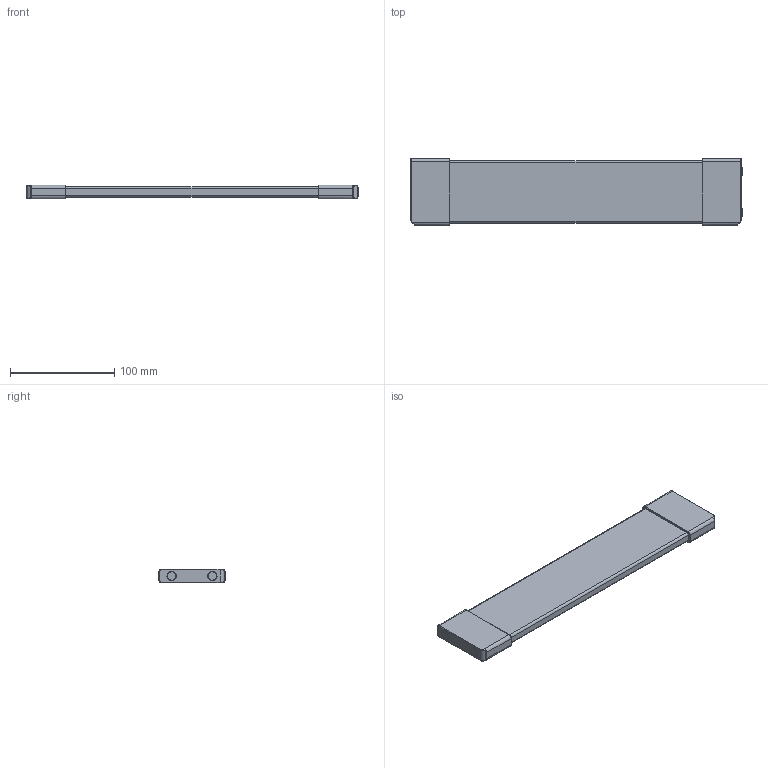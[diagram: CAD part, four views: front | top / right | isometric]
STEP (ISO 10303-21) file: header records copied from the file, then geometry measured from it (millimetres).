
FILE_DESCRIPTION (( 'STEP AP214' ), '1' );
FILE_NAME ('Schubkastenteiler_PROKAB_400.step', '2009-11-04T15:16:39', ( 'Waldinger Reinhard' ), ( 'Grass GmbH' ), 'SwSTEP 2.0', 'SolidWorks 2009', '' );
FILE_SCHEMA (( 'AUTOMOTIVE_DESIGN' ));
Length unit declared in the file: millimetre
Products named in the file (1): Schubkastenteiler_PROKAB_400
Bounding box: 317.9 x 63.7 x 13 mm (x, y, z)
Volume: 202194.7 mm3; surface area: 45898.8 mm2
Topology: 1 solids, 1 shells, 92 faces, 208 edges, 124 vertices
Faces by surface type: cylinder 38, torus 28, plane 22, bspline 4
Entity records: 3210 total; most frequent: CARTESIAN_POINT 1069, DIRECTION 486, ORIENTED_EDGE 416, EDGE_CURVE 208, AXIS2_PLACEMENT_3D 205, VERTEX_POINT 124, CIRCLE 116, EDGE_LOOP 98
